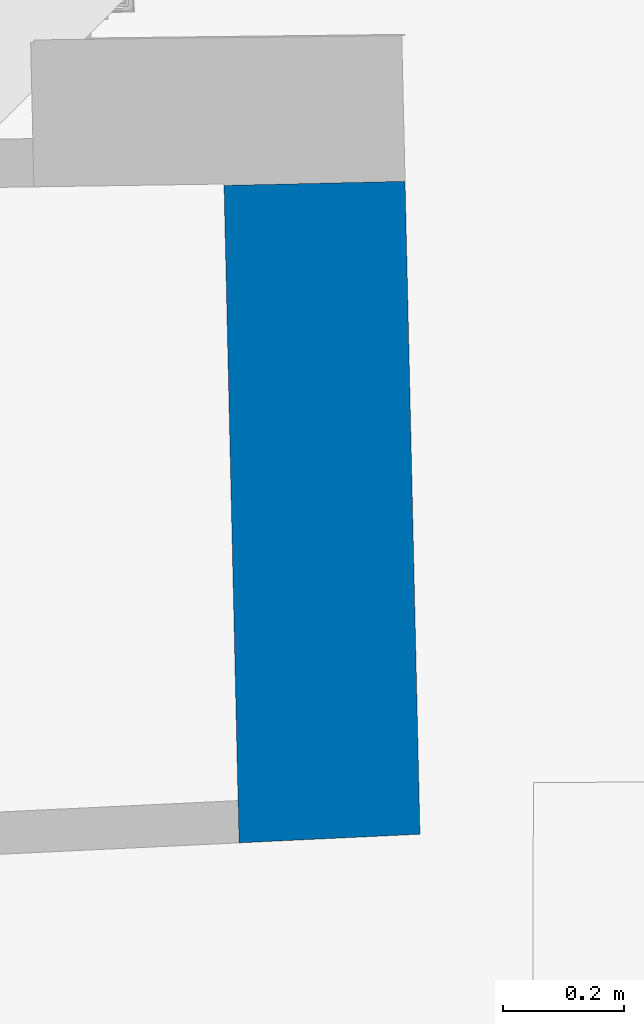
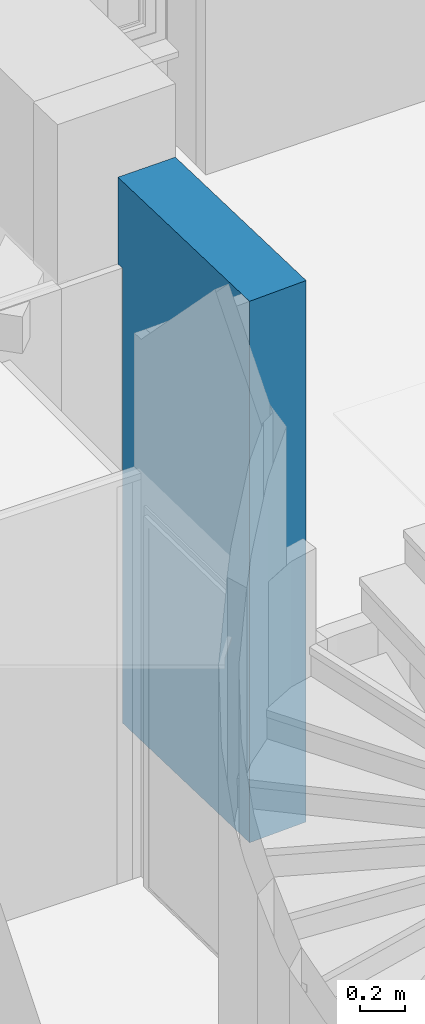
# One storey, part 49 of 72: 1 wall.
"""IFC2X3 building model written with IfcOpenShell, lengths in centimetres."""

from ifc_helpers import new_model, entity, si_unit, converted_unit, direction, frame, origin, origin_with_axes, place, context, subcontext, project, spatial, faceted_brep, material, layer, layer_set, layer_usage, type_object, element, save


model = new_model("IFC2X3")

# Units and contexts
model_context = context("Model", 3, precision=0.0001, world=origin(), true_north=direction((0.225632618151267, 0.974212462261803, 0.0)))
body_context = subcontext(model_context, "Body", "Model", "MODEL_VIEW")
ifc_project = project(units=[si_unit("LENGTHUNIT", "METRE", prefix="CENTI"), si_unit("AREAUNIT", "SQUARE_METRE", prefix="CENTI"), si_unit("VOLUMEUNIT", "CUBIC_METRE", prefix="CENTI"), converted_unit("PLANEANGLEUNIT", "DEGREE", entity("IfcRatioMeasure", 0.0174532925), si_unit("PLANEANGLEUNIT", "RADIAN"), dimensions=[0, 0, 0, 0, 0, 0, 0])], contexts=[model_context])

# Site, building, storey
site_placement = place(None, origin_with_axes())
site = spatial("IfcSite", under=ifc_project, at=site_placement, Name="Default Site", CompositionType="ELEMENT")
building_placement = place(site_placement, origin_with_axes())
building = spatial("IfcBuilding", under=site, at=building_placement, Name="Default Building", CompositionType="ELEMENT")
storey_placement = place(building_placement, frame((0.0, 0.0, 853.910374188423), z_axis=(0.0, 0.0, 1.0), x_axis=(1.0, 0.0, 0.0)))
storey = spatial("IfcBuildingStorey", under=building, at=storey_placement, Name="Niveau 2", CompositionType="ELEMENT", Elevation=853.910374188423)

# Wall
ifc_material = material(Name="<aucun>")
ifc_layer = layer(ifc_material, 30.0)
ifc_layer_set = layer_set([ifc_layer], Name="default")
ifc_layer_usage = layer_usage(ifc_layer_set, "AXIS2", "POSITIVE", -15.0)
wall_type = type_object("IfcWallType", Name="default 300", PredefinedType="NOTDEFINED", material=ifc_layer_set)
wall_placement = place(storey_placement, frame((-677.21090122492, 95.7016222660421, 1.4210854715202e-12), z_axis=(0.0, 0.0, 1.0), x_axis=(-0.0228249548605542, 0.999739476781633, 0.0)))
element("IfcWall", 1, at=wall_placement, inside=storey, type_object=wall_type, material=ifc_layer_usage, Name="Enveloppe 168295", context=body_context, shape_type="Brep", body=[
    faceted_brep([(108.972597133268, 14.9999926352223, -2.33888638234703e-05), (32.5731919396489, 14.9999926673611, -2.33888638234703e-05), (32.5731919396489, 14.9999926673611, 228.000045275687), (108.972597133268, 14.9999926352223, 228.000045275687), (32.5731919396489, 15.0000121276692, -2.33888638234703e-05), (7.00215775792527, 15.0000121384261, -2.33888638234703e-05), (7.00215775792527, 15.0000121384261, 228.000045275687), (32.5731919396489, 15.0000121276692, 228.000045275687), (7.00215775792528, 15.0000211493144, -2.33888638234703e-05), (1.91199239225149e-07, 15.00002115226, -2.33888638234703e-05), (1.91199239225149e-07, 15.00002115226, 228.000045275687), (7.00215775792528, 15.0000211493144, 228.000045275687), (1.9119923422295e-07, 15.0000092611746, 248.206019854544), (7.00215775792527, 15.000009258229, 248.206019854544), (7.00215775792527, 15.000009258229, 228.000045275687), (1.9119923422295e-07, 15.0000092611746, 228.000045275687), (7.00215775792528, 15.0000211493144, 248.206019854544), (108.972597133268, 15.0000211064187, 248.206019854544), (108.972597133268, 15.0000211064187, 247.500014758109), (108.972597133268, 15.0000211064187, 247.319961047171), (108.972597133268, 15.0000211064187, 228.000045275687), (32.5731919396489, 15.0000211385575, 228.000045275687), (112.977308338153, 14.999994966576, 247.500014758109), (109.208335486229, 14.9999949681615, 247.500014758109), (109.208335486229, 14.9999949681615, 248.206019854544), (112.977308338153, 14.999994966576, 248.206019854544), (109.208335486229, 15.0000001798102, 247.500014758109), (108.972597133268, 15.0000001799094, 247.500014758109), (108.972597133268, 15.0000001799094, 248.206019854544), (109.208335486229, 15.0000001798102, 248.206019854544), (1.9119923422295e-07, 15.0000092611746, 292.935443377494), (7.00215775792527, 15.000009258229, 292.935443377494), (7.00215775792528, 15.0000211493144, 292.935443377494), (112.977308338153, 15.0000211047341, 292.935443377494), (112.977308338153, 15.0000211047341, 248.206019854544), (109.208335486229, 15.0000211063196, 248.206019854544), (1.9119923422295e-07, 15.0000092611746, 294.702411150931), (7.00215775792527, 15.000009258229, 294.702411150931), (7.00215775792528, 15.0000211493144, 294.702411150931), (112.977308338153, 15.0000211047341, 294.702411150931), (32.089995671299, -14.9999885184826, -2.33888638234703e-05), (108.972586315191, -14.9999885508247, -2.33888638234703e-05), (108.972586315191, -14.9999885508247, 228.000045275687), (32.089995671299, -14.9999885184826, 228.000045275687), (0.745861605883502, -15.000006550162, -2.33888638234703e-05), (32.089995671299, -15.0000065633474, -2.33888638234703e-05), (32.089995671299, -15.0000065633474, 228.000045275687), (10.1445712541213, -15.0000065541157, 228.000045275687), (0.745861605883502, -15.000006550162, 228.000045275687), (20.145998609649, -15.0000228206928, 248.206019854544), (10.1445712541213, -15.0000228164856, 248.206019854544), (10.1445712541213, -15.0000228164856, 229.999995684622), (20.145998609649, -15.0000228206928, 229.999995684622), (10.1445712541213, -15.0000026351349, 248.206019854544), (0.741918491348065, -14.8413336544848, 248.206019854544), (0.741918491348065, -14.8413336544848, 229.999995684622), (10.1445712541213, -15.0000026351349, 229.999995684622), (10.1445712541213, -15.0000228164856, 228.000045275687), (32.089995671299, -15.0000228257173, 228.000045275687), (108.972586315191, -15.0000228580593, 228.000045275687), (108.972586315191, -15.0000228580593, 247.319961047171), (108.972586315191, -15.0000228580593, 247.500014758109), (108.972586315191, -15.0000228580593, 248.206019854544), (10.1445712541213, -15.0000065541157, 229.999995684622), (0.745861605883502, -15.000006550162, 229.999995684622), (108.972586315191, -15.0000217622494, 247.500014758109), (112.977321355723, -15.000021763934, 247.500014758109), (112.977321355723, -15.000021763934, 248.206019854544), (108.972586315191, -15.0000217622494, 248.206019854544), (20.145998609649, -15.0000228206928, 285.000014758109), (10.1445712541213, -15.0000228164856, 285.000014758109), (10.1445712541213, -15.0000026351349, 285.000014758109), (0.741918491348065, -14.8413336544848, 285.000014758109), (112.977321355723, -15.000022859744, 248.206019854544), (112.977321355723, -15.000022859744, 292.935443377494), (10.1445712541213, -15.0000228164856, 292.935443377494), (0.745861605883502, -15.000006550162, 285.000014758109), (10.1445712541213, -15.0000065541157, 285.000014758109), (10.1445712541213, -15.0000065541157, 292.935443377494), (0.745861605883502, -15.000006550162, 292.935443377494), (112.977321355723, -15.0000065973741, 292.935443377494), (112.977321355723, -15.0000065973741, 294.702411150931), (0.745861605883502, -15.000006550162, 294.702411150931), (108.972586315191, -15.0000217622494, -2.33888638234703e-05), (32.1547624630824, -10.9854520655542, -2.33888638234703e-05), (32.2136582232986, -10.9863674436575, -2.33888638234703e-05), (32.235897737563, -9.4095637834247, -2.33888638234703e-05), (108.972586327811, 14.9999926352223, -2.33888638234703e-05), (108.972586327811, 14.9999926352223, 228.000045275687), (108.972586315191, -15.0000217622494, 228.000045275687), (1.9119923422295e-07, 15.0000092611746, -2.33888638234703e-05), (0.595776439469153, -8.9631611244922, -2.33888638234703e-05), (0.633405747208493, -10.4768464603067, -2.33888638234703e-05), (32.228805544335, -9.40944955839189, -2.33888638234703e-05), (108.972586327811, 14.9999926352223, 247.319961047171), (108.972586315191, -15.0000217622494, 247.319961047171), (108.972586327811, 14.9999926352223, 247.500014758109), (0.741918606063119, -14.841326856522, 229.999995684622), (108.972597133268, 14.9999926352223, 247.500014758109), (112.977321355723, -15.0000199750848, 247.500014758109), (112.977321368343, 14.999994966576, 247.500014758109), (112.977321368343, 14.999994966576, 248.206019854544), (112.977321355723, -15.0000199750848, 248.206019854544), (112.977321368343, 14.999994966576, 292.935443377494), (112.977321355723, -15.0000199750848, 292.935443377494), (0.741918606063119, -14.841326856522, 285.000014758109), (112.977308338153, 14.999994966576, 294.702411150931), (112.977321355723, -15.0000199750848, 294.702411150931), (112.977321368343, 14.999994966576, 294.702411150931), (0.595773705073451, -8.96316119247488, -2.33888638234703e-05), (0.595773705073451, -8.96316119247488, 228.000045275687), (0.745860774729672, -15.0000065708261, -2.33888638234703e-05), (0.745860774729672, -15.0000065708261, 228.000045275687), (0.741915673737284, -14.8413269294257, 228.000045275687), (0.633405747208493, -10.4768464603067, 228.000045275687), (0.633409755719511, -10.4768463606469, -2.33888638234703e-05), (0.633409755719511, -10.4768463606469, 228.000045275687), (0.595776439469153, -8.9631611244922, 228.000045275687), (0.633407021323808, -10.4768464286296, 228.000045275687), (0.741916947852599, -14.8413268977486, 228.000045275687), (0.741916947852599, -14.8413268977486, 229.999995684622), (0.741916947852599, -14.8413268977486, 248.206019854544), (0.741918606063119, -14.841326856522, 228.000045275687), (0.745863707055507, -15.0000064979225, 228.000045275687), (0.745863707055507, -15.0000064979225, 229.999995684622), (0.741916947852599, -14.8413268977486, 285.000014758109), (0.741916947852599, -14.8413268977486, 292.935443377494), (0.745863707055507, -15.0000064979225, 285.000014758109), (0.745863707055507, -15.0000064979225, 292.935443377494), (0.741918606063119, -14.841326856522, 292.935443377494), (0.745862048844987, -15.000006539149, 292.935443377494), (0.745862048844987, -15.000006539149, 294.702411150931)], [[[0, 1, 2, 3]], [[4, 5, 6, 7]], [[8, 9, 10, 11]], [[12, 13, 14, 15]], [[16, 17, 18, 19, 20, 21, 11]], [[22, 23, 24, 25]], [[26, 27, 28, 29]], [[30, 31, 13, 12]], [[32, 33, 34, 35, 17, 16]], [[36, 37, 31, 30]], [[38, 39, 33, 32]], [[40, 41, 42, 43]], [[44, 45, 46, 47, 48]], [[49, 50, 51, 52]], [[53, 54, 55, 56]], [[52, 51, 57, 58, 59, 60, 61, 62, 49]], [[48, 47, 63, 64]], [[65, 66, 67, 68]], [[69, 70, 50, 49]], [[71, 72, 54, 53]], [[49, 62, 73, 74, 75, 70, 69]], [[76, 77, 78, 79]], [[79, 78, 80, 81, 82]], [[0, 83, 40, 84, 85, 86, 4]], [[83, 87, 88, 89]], [[90, 8, 4, 86, 91]], [[44, 92, 84, 40]], [[91, 93, 85, 84, 92]], [[89, 88, 94, 95]], [[95, 94, 96, 65]], [[56, 97, 64]], [[98, 26, 22, 99, 65]], [[99, 100, 101, 102]], [[102, 101, 103, 104]], [[76, 105, 71]], [[106, 38, 36, 82, 107]], [[104, 103, 108, 107]], [[90, 109, 110, 15]], [[92, 111, 112, 113, 114]], [[91, 115, 116, 117]], [[15, 110, 118, 119, 120, 121, 12]], [[122, 123, 124, 97]], [[12, 121, 125, 126, 30]], [[105, 127, 128, 129]], [[30, 126, 130, 131, 36]]]),
])

save(model, "model.ifc")
